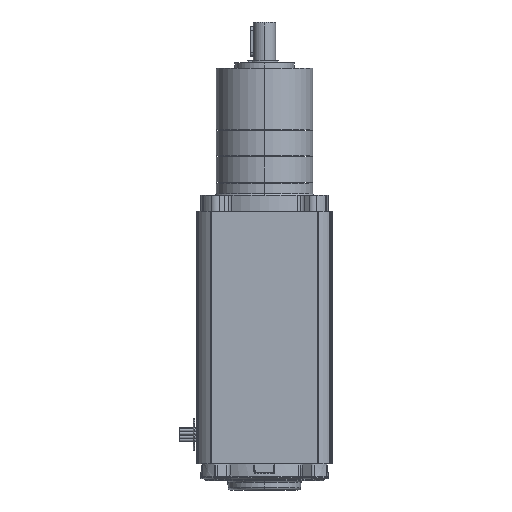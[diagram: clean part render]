
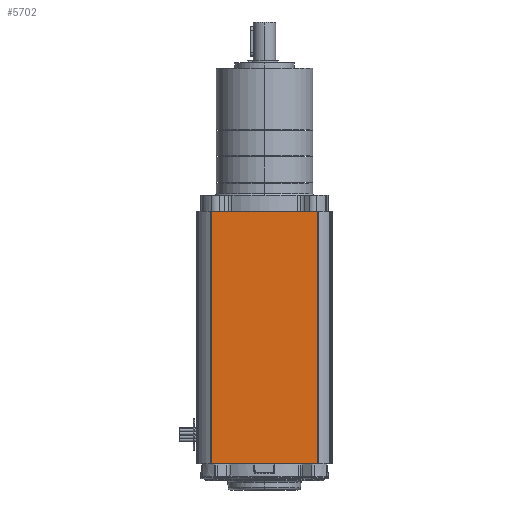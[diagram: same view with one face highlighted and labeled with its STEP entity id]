
A CAD part, left-side view. The second image highlights one B-rep face of the part: STEP entity #5702.
In plain terms, the highlighted planar face has unit normal (-1, 0, 0).
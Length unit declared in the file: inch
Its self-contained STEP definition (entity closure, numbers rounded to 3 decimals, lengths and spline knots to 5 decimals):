
#1390 = DIRECTION ( 'NONE',  ( 0., 0., 1. ) ) ;
#1715 = VECTOR ( 'NONE', #31006, 39.37008 ) ;
#2696 = ORIENTED_EDGE ( 'NONE', *, *, #9547, .F. ) ;
#2751 = VECTOR ( 'NONE', #38538, 39.37008 ) ;
#3871 = EDGE_LOOP ( 'NONE', ( #8649, #2696, #52869, #28272 ) ) ;
#5702 = ADVANCED_FACE ( 'NONE', ( #48976 ), #43403, .T. ) ;
#8649 = ORIENTED_EDGE ( 'NONE', *, *, #53823, .T. ) ;
#9547 = EDGE_CURVE ( 'NONE', #18456, #25025, #47802, .T. ) ;
#11936 = VERTEX_POINT ( 'NONE', #41600 ) ;
#13002 = LINE ( 'NONE', #52058, #1715 ) ;
#17036 = EDGE_CURVE ( 'NONE', #18456, #11936, #18356, .T. ) ;
#18356 = LINE ( 'NONE', #41623, #29594 ) ;
#18456 = VERTEX_POINT ( 'NONE', #49183 ) ;
#24230 = VECTOR ( 'NONE', #34808, 39.37008 ) ;
#25025 = VERTEX_POINT ( 'NONE', #54200 ) ;
#26755 = DIRECTION ( 'NONE',  ( -1., 0., 0. ) ) ;
#28272 = ORIENTED_EDGE ( 'NONE', *, *, #41134, .F. ) ;
#29594 = VECTOR ( 'NONE', #40916, 39.37008 ) ;
#31006 = DIRECTION ( 'NONE',  ( 0., 0., -1. ) ) ;
#33593 = AXIS2_PLACEMENT_3D ( 'NONE', #52068, #26755, #1390 ) ;
#34808 = DIRECTION ( 'NONE',  ( 0., -1., 0. ) ) ;
#35028 = VERTEX_POINT ( 'NONE', #50426 ) ;
#35485 = LINE ( 'NONE', #51591, #24230 ) ;
#38349 = CARTESIAN_POINT ( 'NONE',  ( -1.442, -1.1275, -7.20454 ) ) ;
#38538 = DIRECTION ( 'NONE',  ( 0., 1., 0. ) ) ;
#40916 = DIRECTION ( 'NONE',  ( 0., 0., 1. ) ) ;
#41134 = EDGE_CURVE ( 'NONE', #35028, #11936, #35485, .T. ) ;
#41600 = CARTESIAN_POINT ( 'NONE',  ( -1.442, -1.1275, -1.83454 ) ) ;
#41623 = CARTESIAN_POINT ( 'NONE',  ( -1.442, -1.1275, -7.33954 ) ) ;
#43403 = PLANE ( 'NONE',  #33593 ) ;
#47802 = LINE ( 'NONE', #38349, #2751 ) ;
#48976 = FACE_OUTER_BOUND ( 'NONE', #3871, .T. ) ;
#49183 = CARTESIAN_POINT ( 'NONE',  ( -1.442, -1.1275, -7.20454 ) ) ;
#50426 = CARTESIAN_POINT ( 'NONE',  ( -1.442, 1.1275, -1.83454 ) ) ;
#51591 = CARTESIAN_POINT ( 'NONE',  ( -1.442, 1.1475, -1.83454 ) ) ;
#52058 = CARTESIAN_POINT ( 'NONE',  ( -1.442, 1.1275, -7.33954 ) ) ;
#52068 = CARTESIAN_POINT ( 'NONE',  ( -1.442, 1.1475, -7.33954 ) ) ;
#52869 = ORIENTED_EDGE ( 'NONE', *, *, #17036, .T. ) ;
#53823 = EDGE_CURVE ( 'NONE', #35028, #25025, #13002, .T. ) ;
#54200 = CARTESIAN_POINT ( 'NONE',  ( -1.442, 1.1275, -7.20454 ) ) ;
